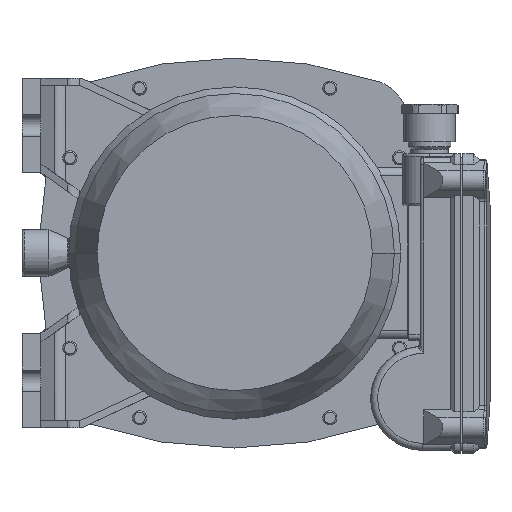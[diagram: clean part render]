
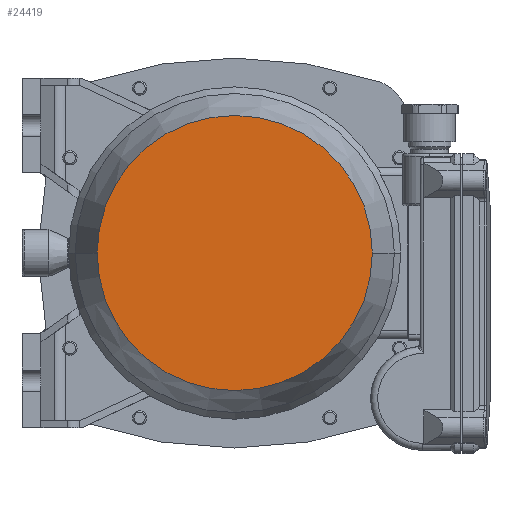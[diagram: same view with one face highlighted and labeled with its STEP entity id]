
A CAD part, front view. The second image highlights one B-rep face of the part: STEP entity #24419.
In plain terms, the highlighted planar face has unit normal (0, -1, 0) as drawn and (1, 0, 0) by its records, which use the part's own axes.
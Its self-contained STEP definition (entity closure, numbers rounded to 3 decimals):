
#18536=CARTESIAN_POINT('',(181.,0.,0.));
#18537=DIRECTION('',(-1.,0.,0.));
#18538=DIRECTION('',(0.,1.,0.));
#18539=AXIS2_PLACEMENT_3D('',#18536,#18537,#18538);
#18544=CARTESIAN_POINT('',(181.,0.,0.));
#18545=DIRECTION('',(1.,0.,0.));
#18546=DIRECTION('',(0.,1.,0.));
#18547=AXIS2_PLACEMENT_3D('',#18544,#18545,#18546);
#19823=CARTESIAN_POINT('',(181.,58.207,0.));
#19825=VERTEX_POINT('',#19823);
#19833=CARTESIAN_POINT('',(181.,-58.207,0.));
#19835=VERTEX_POINT('',#19833);
#24410=CARTESIAN_POINT('',(181.,0.,0.));
#24411=DIRECTION('',(1.,0.,0.));
#24412=DIRECTION('',(0.,-1.,0.));
#24413=AXIS2_PLACEMENT_3D('',#24410,#24411,#24412);
#24414=PLANE('',#24413);
#24415=ORIENTED_EDGE('',*,*,#24392,.T.);
#24416=ORIENTED_EDGE('',*,*,#24403,.F.);
#24417=EDGE_LOOP('',(#24415,#24416));
#24418=FACE_OUTER_BOUND('',#24417,.F.);
#18540=CIRCLE('',#18539,58.207);
#18548=CIRCLE('',#18547,58.207);
#24392=EDGE_CURVE('',#19825,#19835,#18540,.T.);
#24403=EDGE_CURVE('',#19825,#19835,#18548,.T.);
#24419=ADVANCED_FACE('',(#24418),#24414,.T.);
